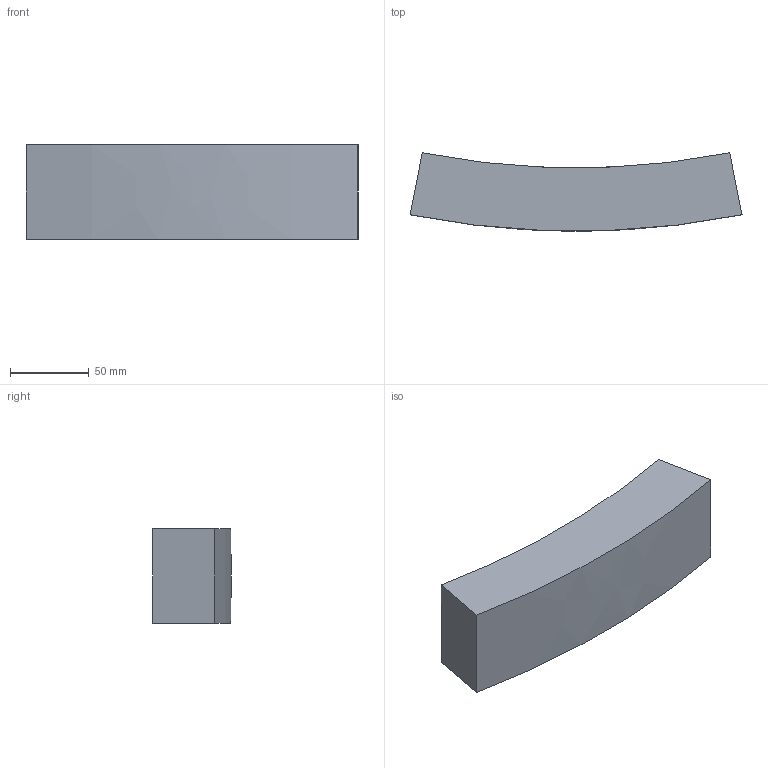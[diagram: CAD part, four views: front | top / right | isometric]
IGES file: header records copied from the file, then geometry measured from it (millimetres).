
Start section:  PTC IGES file: d160-1600_fixbloc_d500_pk-01.igs
Global section: file name: d160-1600_fixbloc_d500_pk-01.igs; native system: Creo Parametric by PTC Inc.; preprocessor: 2019030; author: demmerls; organization: Unknown; date: 20200928.083829; units: millimetre
Bounding box: 210.26 x 49.57 x 60 mm (x, y, z)
Surface area: 45555.5 mm2 (no closed solid volume)
Topology: 0 solids, 0 shells, 6 faces, 24 edges, 24 vertices
Faces by surface type: bspline 6
